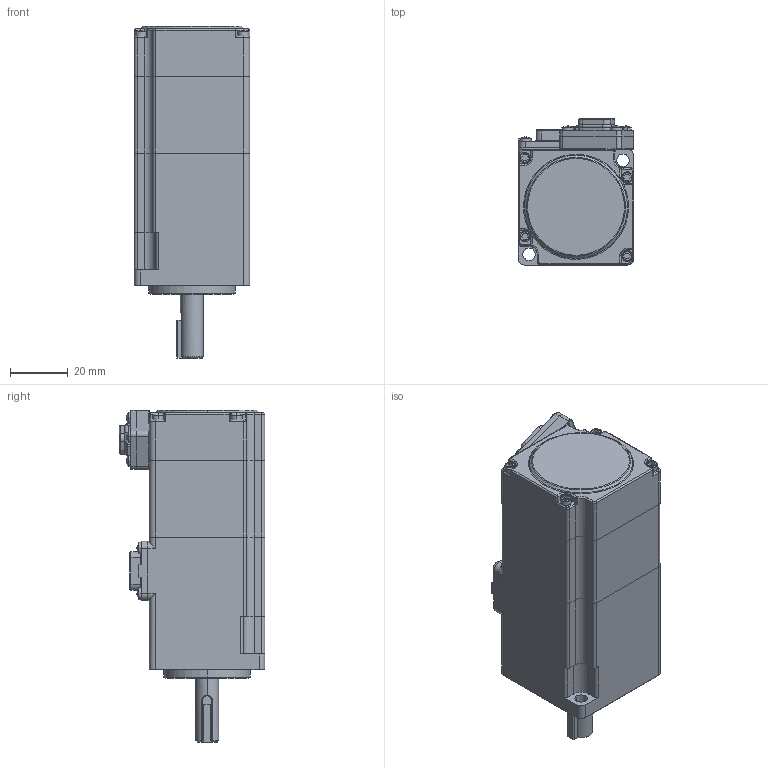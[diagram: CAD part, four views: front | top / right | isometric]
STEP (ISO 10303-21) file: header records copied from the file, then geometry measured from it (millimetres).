
FILE_DESCRIPTION((''),'2;1');
FILE_NAME('40-100W0002_ASM','2025-04-02T08:45:31',('0107316'),(''),'CREO PARAMETRIC BY PTC INC, 2019080','CREO PARAMETRIC BY PTC INC, 2019080','');
FILE_SCHEMA(('CONFIG_CONTROL_DESIGN'));
Products named in the file (18): 40-100W_AF00; SC-MC6P-AP2G-041_AF0; 40-100W_AF0000_ASM; 40-100W_AF0000; _699000; _607_AF; 40_AF00; 40-100W-_AF00002_ASM; 40000; SC-MC7P-A60G-18; ISO7045-M2X4-4_8_AF0; ISO7045-M2X4-4_8_AF1; ISO7045-M2X4-4_8_AF2; ISO7045-M2X4-4_8_AF3; ISO7045-M2X5-4_8; DIN912-M4X16-8_8; 50066-00123-4000; 40-100W0002_ASM
Assembly tree (23 placements, depth 3):
  40-100W0002_ASM
    40-100W_AF0000_ASM
      40-100W_AF00
      SC-MC6P-AP2G-041_AF0
    40-100W-_AF00002_ASM
      40-100W_AF0000
      _699000
      _607_AF
      40_AF00
    40000
    SC-MC7P-A60G-18
    ISO7045-M2X4-4_8_AF0
    ISO7045-M2X4-4_8_AF1
    ISO7045-M2X4-4_8_AF2
    ISO7045-M2X4-4_8_AF3
    ISO7045-M2X5-4_8  x4
    DIN912-M4X16-8_8  x4
    50066-00123-4000
Bounding box: 40 x 50.45 x 115 mm (x, y, z)
Volume: 49301.4 mm3; surface area: 43714 mm2
Topology: 22 solids, 42 shells, 2291 faces, 5958 edges, 3823 vertices
Faces by surface type: plane 1217, cylinder 721, torus 140, cone 110, extrusion 49, sphere 36, bspline 18
Entity records: 68882 total; most frequent: CARTESIAN_POINT 14175, DIRECTION 11526, ORIENTED_EDGE 11169, EDGE_CURVE 5642, AXIS2_PLACEMENT_3D 3947, VECTOR 3632, VERTEX_POINT 3631, LINE 3583
